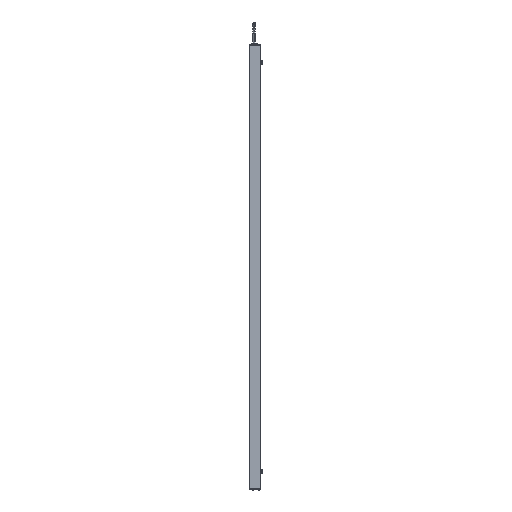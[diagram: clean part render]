
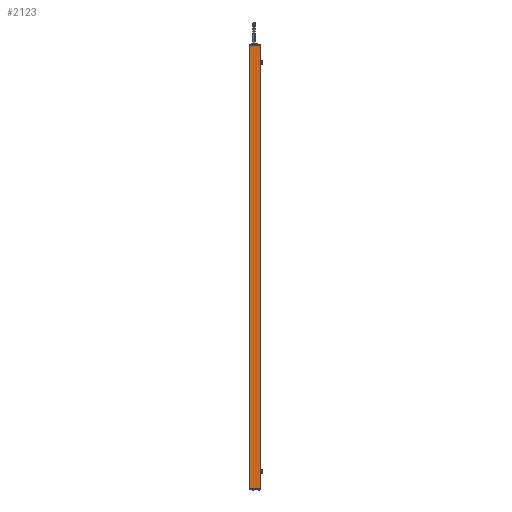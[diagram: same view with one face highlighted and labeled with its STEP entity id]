
A CAD part, left-side view. The second image highlights one B-rep face of the part: STEP entity #2123.
In plain terms, the highlighted planar face has unit normal (-1, 0, 0).
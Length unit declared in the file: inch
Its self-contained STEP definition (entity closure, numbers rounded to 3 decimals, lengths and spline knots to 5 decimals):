
#481 = CARTESIAN_POINT ( 'NONE',  ( -0.665, 1.105, -22.1775 ) ) ;
#873 = CARTESIAN_POINT ( 'NONE',  ( -0.665, 0., -22.1775 ) ) ;
#2041 = CARTESIAN_POINT ( 'NONE',  ( -0.665, 0., 22.1775 ) ) ;
#2123 = ADVANCED_FACE ( 'NONE', ( #10865 ), #14661, .F. ) ;
#2485 = VECTOR ( 'NONE', #13847, 39.37008 ) ;
#2808 = VECTOR ( 'NONE', #18752, 39.37008 ) ;
#3318 = LINE ( 'NONE', #2041, #18351 ) ;
#3671 = EDGE_CURVE ( 'NONE', #13097, #17811, #3318, .T. ) ;
#3730 = VERTEX_POINT ( 'NONE', #6173 ) ;
#4483 = CARTESIAN_POINT ( 'NONE',  ( -0.665, 1.105, 22.1775 ) ) ;
#4717 = CARTESIAN_POINT ( 'NONE',  ( -0.665, 0.015, 22.1775 ) ) ;
#5422 = LINE ( 'NONE', #873, #2485 ) ;
#5785 = ORIENTED_EDGE ( 'NONE', *, *, #18298, .T. ) ;
#5945 = DIRECTION ( 'NONE',  ( 0., 0., -1. ) ) ;
#6173 = CARTESIAN_POINT ( 'NONE',  ( -0.665, 0.015, -22.1775 ) ) ;
#6710 = EDGE_CURVE ( 'NONE', #8930, #3730, #5422, .T. ) ;
#7129 = DIRECTION ( 'NONE',  ( 1., 0., 0. ) ) ;
#8930 = VERTEX_POINT ( 'NONE', #481 ) ;
#9726 = VECTOR ( 'NONE', #5945, 39.37008 ) ;
#9772 = CARTESIAN_POINT ( 'NONE',  ( -0.665, 1.105, 22.1775 ) ) ;
#10545 = DIRECTION ( 'NONE',  ( 0., -1., 0. ) ) ;
#10865 = FACE_OUTER_BOUND ( 'NONE', #17172, .T. ) ;
#10948 = AXIS2_PLACEMENT_3D ( 'NONE', #12948, #7129, #17325 ) ;
#11324 = LINE ( 'NONE', #4483, #9726 ) ;
#12310 = ORIENTED_EDGE ( 'NONE', *, *, #3671, .F. ) ;
#12948 = CARTESIAN_POINT ( 'NONE',  ( -0.665, 0., 22.1775 ) ) ;
#13097 = VERTEX_POINT ( 'NONE', #9772 ) ;
#13847 = DIRECTION ( 'NONE',  ( 0., -1., 0. ) ) ;
#14139 = CARTESIAN_POINT ( 'NONE',  ( -0.665, 0.015, 22.1775 ) ) ;
#14307 = ORIENTED_EDGE ( 'NONE', *, *, #14399, .T. ) ;
#14399 = EDGE_CURVE ( 'NONE', #13097, #8930, #11324, .T. ) ;
#14661 = PLANE ( 'NONE',  #10948 ) ;
#15792 = ORIENTED_EDGE ( 'NONE', *, *, #6710, .T. ) ;
#16893 = LINE ( 'NONE', #14139, #2808 ) ;
#17172 = EDGE_LOOP ( 'NONE', ( #12310, #14307, #15792, #5785 ) ) ;
#17325 = DIRECTION ( 'NONE',  ( 0., 0., -1. ) ) ;
#17811 = VERTEX_POINT ( 'NONE', #4717 ) ;
#18298 = EDGE_CURVE ( 'NONE', #3730, #17811, #16893, .T. ) ;
#18351 = VECTOR ( 'NONE', #10545, 39.37008 ) ;
#18752 = DIRECTION ( 'NONE',  ( 0., 0., 1. ) ) ;
